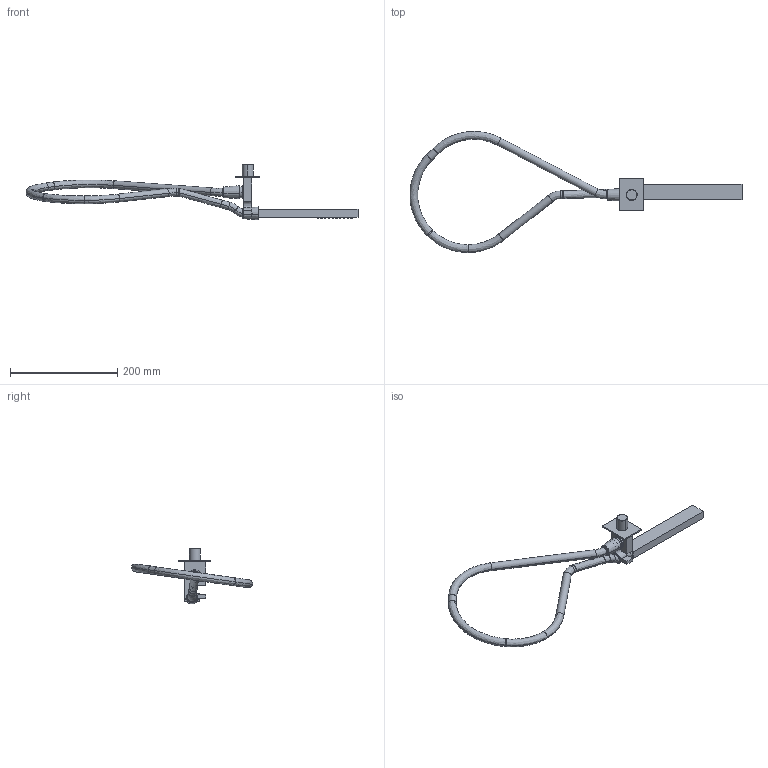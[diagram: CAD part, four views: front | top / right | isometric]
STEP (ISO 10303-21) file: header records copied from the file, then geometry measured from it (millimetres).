
FILE_DESCRIPTION (( 'STEP AP203' ), '1' );
FILE_NAME ('K7.STEP', '2025-02-07T15:16:57', ( '' ), ( '' ), 'SwSTEP 2.0', 'SolidWorks 2024', '' );
FILE_SCHEMA (( 'CONFIG_CONTROL_DESIGN' ));
Length unit declared in the file: millimetre
Products named in the file (4): DOC7; K7; PRE10; FLEX   CL150
Assembly tree (3 placements, depth 2):
  K7
    FLEX   CL150
    DOC7
    PRE10
Bounding box: 619.32 x 225.98 x 104.01 mm (x, y, z)
Volume: 310161.4 mm3; surface area: 86109.7 mm2
Topology: 3 solids, 3 shells, 291 faces, 590 edges, 380 vertices
Faces by surface type: plane 104, cylinder 92, cone 69, bspline 22, torus 4
Entity records: 9578 total; most frequent: CARTESIAN_POINT 2811, DIRECTION 1474, ORIENTED_EDGE 1180, AXIS2_PLACEMENT_3D 621, EDGE_CURVE 590, VERTEX_POINT 380, EDGE_LOOP 366, CIRCLE 346
